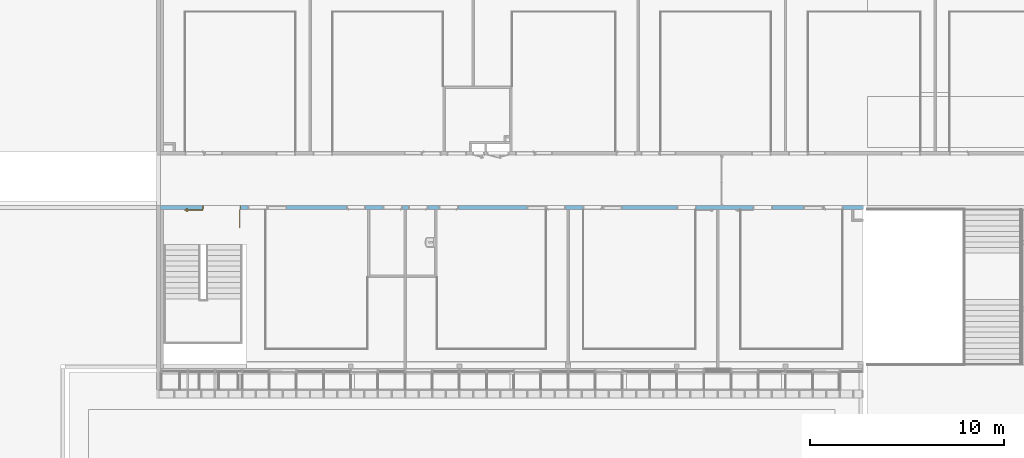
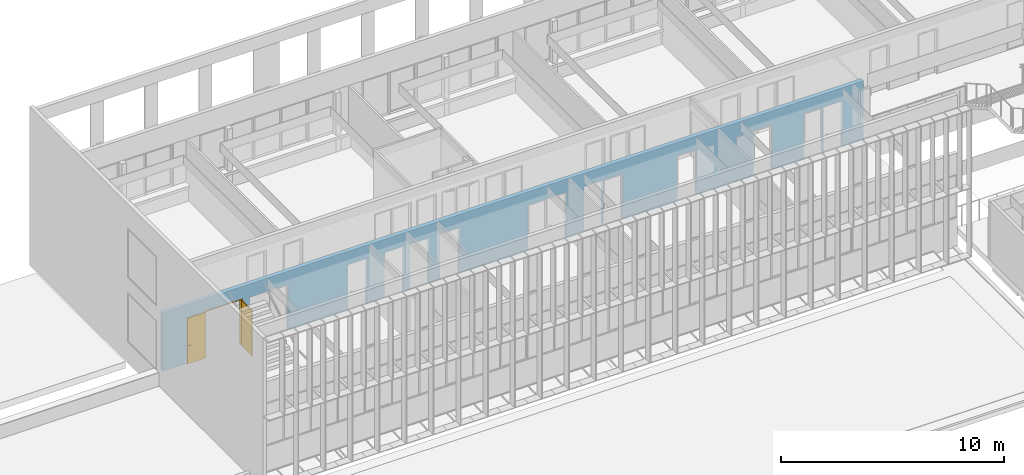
# One storey, part 95 of 106: 1 door, 15 openings, plus 1 element that does not belong to this part.
"""IFC2X3 building model written with IfcOpenShell, lengths in centimetres."""

from ifc_helpers import new_model, entity, si_unit, converted_unit, derived_unit, direction, frame, frame_2d, origin, place, context, subcontext, project, spatial, polyline, rectangle, extrude, clip, bounded_halfspace, faceted_brep, source, transform, mapped, material, material_list, layer, layer_set, layer_usage, type_object, type_shapes, element, fill, save


model = new_model("IFC2X3")

# Units and contexts
model_context = context("Model", 3, precision=0.001, world=origin(), true_north=direction((6.12303176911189e-17, 1.0)))
body_context = subcontext(model_context, "Body", "Model", "MODEL_VIEW")
ifc_project = project(units=[si_unit("LENGTHUNIT", "METRE", prefix="CENTI"), si_unit("AREAUNIT", "SQUARE_METRE"), si_unit("VOLUMEUNIT", "CUBIC_METRE"), converted_unit("PLANEANGLEUNIT", "DEGREE", entity("IfcRatioMeasure", 0.0174532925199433), si_unit("PLANEANGLEUNIT", "RADIAN"), dimensions=[0, 0, 0, 0, 0, 0, 0]), si_unit("MASSUNIT", "GRAM", prefix="KILO"), derived_unit("MASSDENSITYUNIT", [(si_unit("MASSUNIT", "GRAM", prefix="KILO"), 1), (si_unit("LENGTHUNIT", "METRE"), -3)]), si_unit("TIMEUNIT", "SECOND"), si_unit("FREQUENCYUNIT", "HERTZ"), si_unit("THERMODYNAMICTEMPERATUREUNIT", "DEGREE_CELSIUS"), derived_unit("THERMALTRANSMITTANCEUNIT", [(si_unit("MASSUNIT", "GRAM", prefix="KILO"), 1), (si_unit("THERMODYNAMICTEMPERATUREUNIT", "KELVIN"), -1), (si_unit("TIMEUNIT", "SECOND"), -3)]), derived_unit("VOLUMETRICFLOWRATEUNIT", [(si_unit("LENGTHUNIT", "METRE"), 3), (si_unit("TIMEUNIT", "SECOND"), -1)]), si_unit("ELECTRICCURRENTUNIT", "AMPERE"), si_unit("ELECTRICVOLTAGEUNIT", "VOLT"), si_unit("POWERUNIT", "WATT"), si_unit("FORCEUNIT", "NEWTON", prefix="KILO"), si_unit("ILLUMINANCEUNIT", "LUX"), si_unit("LUMINOUSFLUXUNIT", "LUMEN"), si_unit("LUMINOUSINTENSITYUNIT", "CANDELA"), derived_unit("USERDEFINED", [(si_unit("MASSUNIT", "GRAM", prefix="KILO"), -1), (si_unit("LENGTHUNIT", "METRE"), -2), (si_unit("TIMEUNIT", "SECOND"), 3), (si_unit("LUMINOUSFLUXUNIT", "LUMEN"), 1)]), derived_unit("LINEARVELOCITYUNIT", [(si_unit("LENGTHUNIT", "METRE"), 1), (si_unit("TIMEUNIT", "SECOND"), -1)]), si_unit("PRESSUREUNIT", "PASCAL"), derived_unit("USERDEFINED", [(si_unit("LENGTHUNIT", "METRE"), -2), (si_unit("MASSUNIT", "GRAM", prefix="KILO"), 1), (si_unit("TIMEUNIT", "SECOND"), -2)])], contexts=[model_context])

# Site, building, storey
site_placement = place(None, frame((-2781.94577612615, 7442.24238424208, 0.0)))
site = spatial("IfcSite", under=ifc_project, at=site_placement, Name="Default", CompositionType="ELEMENT")
building_placement = place(site_placement, origin())
building = spatial("IfcBuilding", under=site, at=building_placement, CompositionType="ELEMENT")
storey_placement = place(building_placement, frame((0.0, 0.0, 422.0)))
storey = spatial("IfcBuildingStorey", under=building, at=storey_placement, Name="Toiture - Cuisine", CompositionType="ELEMENT", Elevation=421.999999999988)

# Wall, openings, door
ifc_material_1 = material(Name="01 - Maçonnerie")
ifc_layer = layer(ifc_material_1, 20.0)
ifc_layer_set = layer_set([ifc_layer], Name="Mur de base:04 - Structure - béton - 20cm")
ifc_layer_usage = layer_usage(ifc_layer_set, "AXIS2", "NEGATIVE", 10.0)
wall_type = type_object("IfcWallType", Name="Mur de base:04 - Structure - béton - 20cm", PredefinedType="STANDARD", material=ifc_layer_set)
wall_placement = place(building_placement, frame((-4787.99987760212, -1100.0, 422.0), z_axis=(0.0, 0.0, 1.0), x_axis=(-1.0, 0.0, 0.0)))
wall = element("IfcWallStandardCase", 1, at=wall_placement, inside=storey, type_object=wall_type, material=ifc_layer_usage, Name="Mur de base:04 - Structure - béton - 20cm", ObjectType="Mur de base:04 - Structure - béton - 20cm", context=body_context, shape_type="Clipping", body=[
    clip(extrude(rectangle(XDim=3621.50000006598, YDim=20.0000000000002, at=frame_2d((1810.75000003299, 5.32907051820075e-14), x_axis=(-1.0, 0.0))), origin(), (0.0, 0.0, 1.0), 321.0), bounded_halfspace(frame((4.0, -10.0, 321.0), z_axis=(0.0, 0.0, -1.0), x_axis=(0.0, -1.0, 0.0)), True, frame((4.0, -10.0, 321.0)), polyline([(0.0, 0.0), (720.0, 0.0), (730.0, 0.0), (3617.50000006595, 0.0), (3617.50000006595, 20.0), (3602.20000006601, 20.0), (3077.50016406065, 20.0), (3075.50016406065, 20.0), (2550.5, 20.0), (2540.5, 20.0), (2362.50000003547, 20.0), (2352.50000003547, 20.0), (2203.5, 20.0), (2193.5, 20.0), (1632.5, 20.0), (1630.5, 20.0), (1522.50016406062, 20.0), (1512.50016406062, 20.0), (1440.5, 20.0), (1438.5, 20.0), (862.500000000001, 20.0), (860.5, 20.0), (750.500000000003, 20.0), (740.500000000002, 20.0), (630.500000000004, 20.0), (628.500000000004, 20.0), (104.500000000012, 20.0), (102.500000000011, 20.0), (56.0, 20.0), (46.0, 20.0), (0.0, 20.0), (0.0, 0.0)]))),
])
opening_1_placement = place(wall_placement, frame((3071.50016406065, -10.0, 0.0)))
element("IfcOpeningElement", 2, at=opening_1_placement, cuts=wall, Name="Int. Simple:PV (0.93m x 2.50m):1", ObjectType="Opening", context=body_context, shape_type="SweptSolid", body=[
    extrude(rectangle(XDim=248.500000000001, YDim=99.9999999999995, at=frame_2d((124.250000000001, 49.9999999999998), x_axis=(1.0, 0.0))), frame((0.0, 0.0, 0.0), z_axis=(0.0, 1.0, 0.0), x_axis=(0.0, 0.0, 1.0)), (0.0, 0.0, 1.0), 20.0),
])
opening_2_placement = place(wall_placement, frame((1534.5, -10.0, 0.0)))
element("IfcOpeningElement", 3, at=opening_2_placement, cuts=wall, Name="Int. Simple:PV (0.93m x 2.50m):1", ObjectType="Opening", context=body_context, shape_type="SweptSolid", body=[
    extrude(rectangle(XDim=248.500000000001, YDim=99.9999999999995, at=frame_2d((124.250000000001, 50.0), x_axis=(1.0, 0.0))), frame((0.0, 0.0, 0.0), z_axis=(0.0, 1.0, 0.0), x_axis=(0.0, 0.0, 1.0)), (0.0, 0.0, 1.0), 20.0),
])
opening_3_placement = place(wall_placement, frame((861.500000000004, -10.0, 0.0)))
element("IfcOpeningElement", 4, at=opening_3_placement, cuts=wall, Name="Int. Simple:PV (0.93m x 2.50m):1", ObjectType="Opening", context=body_context, shape_type="SweptSolid", body=[
    extrude(rectangle(XDim=248.500000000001, YDim=99.9999999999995, at=frame_2d((124.250000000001, 50.0), x_axis=(1.0, 0.0))), frame((0.0, 0.0, 0.0), z_axis=(0.0, 1.0, 0.0), x_axis=(0.0, 0.0, 1.0)), (0.0, 0.0, 1.0), 20.0),
])
opening_4_placement = place(wall_placement, frame((469.500000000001, -10.0, 0.0)))
element("IfcOpeningElement", 5, at=opening_4_placement, cuts=wall, Name="Int. Simple:PV (0.93m x 2.50m):1", ObjectType="Opening", context=body_context, shape_type="SweptSolid", body=[
    extrude(rectangle(XDim=248.500000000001, YDim=99.9999999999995, at=frame_2d((124.250000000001, 49.9999999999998), x_axis=(1.0, 0.0))), frame((0.0, 0.0, 0.0), z_axis=(0.0, 1.0, 0.0), x_axis=(0.0, 0.0, 1.0)), (0.0, 0.0, 1.0), 20.0),
])
opening_5_placement = place(wall_placement, frame((2971.50016406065, -10.0, 0.0)))
element("IfcOpeningElement", 6, at=opening_5_placement, cuts=wall, Name="châssis intérieur vitré:châssis intérieur vitré (h=270) R+1:1", ObjectType="Opening", context=body_context, shape_type="SweptSolid", body=[
    extrude(rectangle(XDim=250.0, YDim=99.9999999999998, at=frame_2d((125.0, 49.9999999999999), x_axis=(1.0, 0.0))), frame((0.0, 0.0, 0.0), z_axis=(0.0, 1.0, 0.0), x_axis=(0.0, 0.0, 1.0)), (0.0, 0.0, 1.0), 20.0),
])
opening_6_placement = place(wall_placement, frame((1634.50000000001, -10.0, 0.0)))
element("IfcOpeningElement", 7, at=opening_6_placement, cuts=wall, Name="châssis intérieur vitré:châssis intérieur vitré (h=270) R+1:1", ObjectType="Opening", context=body_context, shape_type="SweptSolid", body=[
    extrude(rectangle(XDim=250.0, YDim=99.9999999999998, at=frame_2d((125.0, 49.9999999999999), x_axis=(1.0, 0.0))), frame((0.0, 0.0, 0.0), z_axis=(0.0, 1.0, 0.0), x_axis=(0.0, 0.0, 1.0)), (0.0, 0.0, 1.0), 20.0),
])
opening_7_placement = place(wall_placement, frame((1243.0, -10.0, 0.0)))
element("IfcOpeningElement", 8, at=opening_7_placement, cuts=wall, Name="châssis intérieur vitré:châssis intérieur vitré (h=270) R+1:1", ObjectType="Opening", context=body_context, shape_type="SweptSolid", body=[
    extrude(rectangle(XDim=250.0, YDim=99.9999999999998, at=frame_2d((125.0, 49.9999999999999), x_axis=(1.0, 0.0))), frame((0.0, 0.0, 0.0), z_axis=(0.0, 1.0, 0.0), x_axis=(0.0, 0.0, 1.0)), (0.0, 0.0, 1.0), 20.0),
])
opening_8_placement = place(wall_placement, frame((208.0, -10.0, 0.0)))
element("IfcOpeningElement", 9, at=opening_8_placement, cuts=wall, Name="châssis intérieur vitré:châssis intérieur vitré (h=270) R+1:1", ObjectType="Opening", context=body_context, shape_type="SweptSolid", body=[
    extrude(rectangle(XDim=250.0, YDim=99.9999999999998, at=frame_2d((125.0, 49.9999999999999), x_axis=(1.0, 0.0))), frame((0.0, 0.0, 0.0), z_axis=(0.0, 1.0, 0.0), x_axis=(0.0, 0.0, 1.0)), (0.0, 0.0, 1.0), 20.0),
])
opening_9_placement = place(wall_placement, frame((2564.5, -10.0, 0.0)))
element("IfcOpeningElement", 10, at=opening_9_placement, cuts=wall, Name="Int. Simple:PV (0.93m x 2.50m):1", ObjectType="Opening", context=body_context, shape_type="SweptSolid", body=[
    extrude(rectangle(XDim=248.500000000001, YDim=99.9999999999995, at=frame_2d((124.250000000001, 50.0), x_axis=(1.0, 0.0))), frame((0.0, 0.0, 0.0), z_axis=(0.0, 1.0, 0.0), x_axis=(0.0, 0.0, 1.0)), (0.0, 0.0, 1.0), 20.0),
])
opening_10_placement = place(wall_placement, frame((2374.5, -10.0, 0.0)))
element("IfcOpeningElement", 11, at=opening_10_placement, cuts=wall, Name="Int. Simple:PP simple (0.93m x 2.50m):1", ObjectType="Opening", context=body_context, shape_type="SweptSolid", body=[
    extrude(rectangle(XDim=248.500000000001, YDim=99.9999999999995, at=frame_2d((124.250000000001, 49.9999999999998), x_axis=(1.0, 0.0))), frame((0.0, 0.0, 0.0), z_axis=(0.0, 1.0, 0.0), x_axis=(0.0, 0.0, 1.0)), (0.0, 0.0, 1.0), 20.0),
])
opening_11_placement = place(wall_placement, frame((2244.5, -10.0, 0.0)))
element("IfcOpeningElement", 12, at=opening_11_placement, cuts=wall, Name="Int. Simple:PP simple (0.93m x 2.50m):1", ObjectType="Opening", context=body_context, shape_type="SweptSolid", body=[
    extrude(rectangle(XDim=248.500000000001, YDim=99.9999999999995, at=frame_2d((124.250000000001, 49.9999999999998), x_axis=(1.0, 0.0))), frame((0.0, 0.0, 0.0), z_axis=(0.0, 1.0, 0.0), x_axis=(0.0, 0.0, 1.0)), (0.0, 0.0, 1.0), 20.0),
])
opening_12_placement = place(wall_placement, frame((2087.5, -10.0, 0.0)))
element("IfcOpeningElement", 13, at=opening_12_placement, cuts=wall, Name="Int. Simple:PV (0.93m x 2.50m):1", ObjectType="Opening", context=body_context, shape_type="SweptSolid", body=[
    extrude(rectangle(XDim=248.500000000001, YDim=99.9999999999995, at=frame_2d((124.250000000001, 49.9999999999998), x_axis=(1.0, 0.0))), frame((0.0, 0.0, 0.0), z_axis=(0.0, 1.0, 0.0), x_axis=(0.0, 0.0, 1.0)), (0.0, 0.0, 1.0), 20.0),
])
opening_13_placement = place(wall_placement, frame((1344.5, -10.0, 0.0)))
element("IfcOpeningElement", 14, at=opening_13_placement, cuts=wall, Name="Int. Simple:PV (0.93m x 2.50m):1", ObjectType="Opening", context=body_context, shape_type="SweptSolid", body=[
    extrude(rectangle(XDim=248.500000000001, YDim=99.9999999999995, at=frame_2d((124.250000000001, 49.9999999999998), x_axis=(1.0, 0.0))), frame((0.0, 0.0, 0.0), z_axis=(0.0, 1.0, 0.0), x_axis=(0.0, 0.0, 1.0)), (0.0, 0.0, 1.0), 20.0),
])
opening_14_placement = place(wall_placement, frame((106.500000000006, -10.0, 0.0)))
element("IfcOpeningElement", 15, at=opening_14_placement, cuts=wall, Name="Int. Simple:PV (0.93m x 2.50m):1", ObjectType="Opening", context=body_context, shape_type="SweptSolid", body=[
    extrude(rectangle(XDim=248.500000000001, YDim=99.9999999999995, at=frame_2d((124.250000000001, 50.0), x_axis=(1.0, 0.0))), frame((0.0, 0.0, 0.0), z_axis=(0.0, 1.0, 0.0), x_axis=(0.0, 0.0, 1.0)), (0.0, 0.0, 1.0), 20.0),
])
opening_15_placement = place(wall_placement, frame((3208.50000000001, -10.0, 0.0)))
opening_15 = element("IfcOpeningElement", 16, at=opening_15_placement, cuts=wall, Name="Int. Double:PP (1.90m x 2.50m):1", ObjectType="Opening", context=body_context, shape_type="SweptSolid", body=[
    extrude(rectangle(XDim=253.500000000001, YDim=197.0, at=frame_2d((126.750000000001, 98.5), x_axis=(1.0, 0.0))), frame((0.0, 0.0, 0.0), z_axis=(0.0, 1.0, 0.0), x_axis=(0.0, 0.0, 1.0)), (0.0, 0.0, 1.0), 20.0),
])
ifc_material_2 = material(Name="Bois - Panneau de porte")
ifc_material_3 = material(Name="Finition Peinture - Blanc satiné")
ifc_material_4 = material(Name="Bois - Cadre de porte")
ifc_material_list_1 = material_list([ifc_material_2, ifc_material_3, ifc_material_4])
ifc_material_list_2 = material_list([ifc_material_2, ifc_material_3, ifc_material_4])
door_style = type_object("IfcDoorStyle", Name="PP (1.90m x 2.50m)", ConstructionType="NOTDEFINED", OperationType="DOUBLE_DOOR_SINGLE_SWING", ParameterTakesPrecedence=False, Sizeable=False, material=ifc_material_list_2)
shared_shape = source(origin(), body_context, "Body", "Brep", [
    faceted_brep([(196.500000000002, -95.0, 250.0), (196.500000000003, 0.0, 250.0), (196.500000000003, 0.0, 0.0), (196.500000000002, -95.0, 0.0), (200.500000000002, -95.0, 250.0), (200.500000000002, -95.0, 0.0), (200.500000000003, 0.0, 0.0), (200.500000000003, 0.0, 250.0)], [[[0, 1, 2, 3]], [[4, 5, 6, 7]], [[1, 0, 4, 7]], [[2, 1, 7, 6]], [[3, 2, 6, 5]], [[0, 3, 5, 4]]]),
    faceted_brep([(-80.4999999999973, 0.499999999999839, 87.0), (-80.4999999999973, 0.499999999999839, 108.0), (-79.5352761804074, 0.499999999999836, 108.399601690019), (-78.4999999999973, 0.499999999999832, 108.535898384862), (-77.4647238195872, 0.499999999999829, 108.399601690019), (-76.4999999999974, 0.499999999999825, 108.0), (-76.4999999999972, 0.499999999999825, 87.0), (-77.4647238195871, 0.499999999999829, 86.6003983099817), (-78.4999999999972, 0.499999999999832, 86.464101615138), (-79.5352761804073, 0.499999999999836, 86.6003983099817), (-80.4999999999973, 0.0, 108.0), (-80.4999999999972, 0.0, 87.0), (-79.5352761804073, 0.0, 86.6003983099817), (-78.4999999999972, 0.0, 86.464101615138), (-77.4647238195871, 0.0, 86.6003983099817), (-76.4999999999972, 0.0, 87.0), (-76.4999999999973, 0.0, 108.0), (-77.4647238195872, 0.0, 108.399601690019), (-78.4999999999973, 0.0, 108.535898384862), (-79.5352761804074, 0.0, 108.399601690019)], [[[0, 1, 2, 3, 4, 5, 6, 7, 8, 9]], [[10, 11, 12, 13, 14, 15, 16, 17, 18, 19]], [[9, 12, 11, 0]], [[8, 13, 12, 9]], [[7, 14, 13, 8]], [[7, 6, 15, 14]], [[15, 6, 5, 16]], [[4, 17, 16, 5]], [[3, 18, 17, 4]], [[2, 19, 18, 3]], [[2, 1, 10, 19]], [[11, 10, 1, 0]]]),
    faceted_brep([(-80.4999999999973, -4.0, 87.0), (-80.4999999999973, -4.0, 108.0), (-79.5352761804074, -4.0, 108.399601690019), (-78.4999999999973, -4.0, 108.535898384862), (-77.4647238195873, -4.0, 108.399601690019), (-76.4999999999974, -4.0, 108.0), (-76.4999999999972, -4.0, 87.0), (-77.4647238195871, -4.0, 86.6003983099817), (-78.4999999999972, -4.0, 86.464101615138), (-79.5352761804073, -4.0, 86.6003983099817), (-78.4999999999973, -4.50000000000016, 108.535898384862), (-79.5352761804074, -4.50000000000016, 108.399601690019), (-80.4999999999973, -4.50000000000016, 108.0), (-80.4999999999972, -4.50000000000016, 87.0), (-79.5352761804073, -4.50000000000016, 86.6003983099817), (-78.4999999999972, -4.50000000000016, 86.464101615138), (-77.4647238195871, -4.50000000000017, 86.6003983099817), (-76.4999999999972, -4.50000000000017, 87.0), (-76.4999999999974, -4.50000000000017, 108.0), (-77.4647238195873, -4.50000000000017, 108.399601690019)], [[[0, 1, 2, 3, 4, 5, 6, 7, 8, 9]], [[10, 11, 12, 13, 14, 15, 16, 17, 18, 19]], [[4, 19, 18, 5]], [[3, 10, 19, 4]], [[2, 11, 10, 3]], [[2, 1, 12, 11]], [[13, 12, 1, 0]], [[9, 14, 13, 0]], [[8, 15, 14, 9]], [[7, 16, 15, 8]], [[7, 6, 17, 16]], [[17, 6, 5, 18]]]),
    faceted_brep([(-78.2974701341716, 0.499999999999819, 100.778044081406), (-78.7025298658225, 0.49999999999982, 100.778044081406), (-79.0999999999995, 0.499999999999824, 100.699999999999), (-79.1000000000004, 0.499999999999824, 99.2999999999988), (-78.7025298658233, 0.49999999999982, 99.221955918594), (-78.2974701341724, 0.499999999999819, 99.2219559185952), (-77.8999999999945, 0.499999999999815, 99.3000000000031), (-77.8999999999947, 0.499999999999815, 100.7), (-78.7025298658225, 3.10045754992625, 100.778044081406), (-79.0999999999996, 3.26509507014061, 100.7), (-78.2974701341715, 2.93267631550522, 100.778044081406), (-76.9298602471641, 4.30028620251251, 100.778044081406), (-77.0976414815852, 4.70534593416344, 100.778044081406), (-77.8999999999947, 2.76803879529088, 100.7), (-77.8999999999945, 2.76803879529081, 99.3000000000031), (-78.2974701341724, 2.93267631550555, 99.2219559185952), (-78.7025298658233, 3.10045754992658, 99.221955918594), (-77.0976414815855, 4.70534593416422, 99.221955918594), (-76.9298602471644, 4.3002862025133, 99.2219559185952), (-79.1000000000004, 3.26509507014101, 99.2999999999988), (-77.2622790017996, 5.10281606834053, 100.7), (-76.7652227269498, 3.9028160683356, 100.7), (-76.7652227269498, 3.90281606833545, 99.3000000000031), (-77.2622790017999, 5.10281606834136, 99.2999999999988), (-68.4981359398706, 5.10281606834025, 100.7), (-68.4981359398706, 4.70534593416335, 100.778044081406), (-68.4981359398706, 4.30028620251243, 100.778044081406), (-68.4981359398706, 3.90281606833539, 100.699999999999), (-68.4981359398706, 3.90281606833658, 99.3000000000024), (-68.4981359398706, 4.30028620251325, 99.2219559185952), (-68.4981359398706, 4.70534593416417, 99.221955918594), (-68.4981359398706, 5.10281606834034, 99.2999999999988), (-72.7139980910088, 4.50281606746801, 100.78786867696), (-73.2692302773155, 5.10281606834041, 100.7), (-72.6316793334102, 3.90281606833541, 100.7), (-72.6316793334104, 3.90281606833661, 99.3000000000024), (-72.7139981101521, 4.50281607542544, 99.2121313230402), (-73.2692310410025, 5.10281606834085, 99.2999999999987)], [[[0, 1, 2, 3, 4, 5, 6, 7]], [[2, 1, 8, 9]], [[1, 0, 10, 11, 12, 8]], [[0, 7, 13, 10]], [[14, 13, 7, 6]], [[5, 15, 14, 6]], [[5, 4, 16, 17, 18, 15]], [[3, 19, 16, 4]], [[9, 19, 3, 2]], [[9, 8, 12, 20]], [[10, 13, 21, 11]], [[22, 21, 13, 14]], [[14, 15, 18, 22]], [[16, 19, 23, 17]], [[20, 23, 19, 9]], [[24, 25, 26, 27, 28, 29, 30, 31]], [[32, 25, 33]], [[33, 25, 24]], [[33, 20, 12]], [[11, 34, 32]], [[34, 11, 21]], [[27, 26, 34]], [[32, 26, 25]], [[32, 34, 26]], [[32, 33, 12]], [[11, 32, 12]], [[21, 22, 35, 28, 27, 34]], [[36, 29, 35]], [[30, 36, 37]], [[18, 35, 22]], [[29, 28, 35]], [[30, 37, 31]], [[37, 17, 23]], [[36, 17, 37]], [[36, 18, 17]], [[36, 35, 18]], [[29, 36, 30]], [[23, 20, 33, 24, 31, 37]]]),
    faceted_brep([(-78.2974701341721, -4.50000000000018, 99.2219559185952), (-78.702529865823, -4.50000000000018, 99.221955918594), (-79.0999999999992, -4.50000000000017, 99.2999999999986), (-79.0999999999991, -4.50000000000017, 100.7), (-78.7025298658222, -4.50000000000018, 100.778044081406), (-78.2974701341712, -4.50000000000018, 100.778044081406), (-77.8999999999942, -4.50000000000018, 100.7), (-77.8999999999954, -4.50000000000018, 99.3000000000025), (-77.8999999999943, -6.74852045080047, 100.7), (-77.8999999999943, -6.74852045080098, 99.3000000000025), (-78.2974701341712, -6.91315797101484, 100.778044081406), (-78.7025298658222, -7.08093920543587, 100.778044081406), (-77.0838906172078, -8.69957845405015, 100.778044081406), (-76.9161093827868, -8.29451872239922, 100.778044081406), (-79.0999999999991, -7.2455767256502, 100.7), (-79.0999999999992, -7.24557672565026, 99.2999999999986), (-78.7025298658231, -7.08093920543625, 99.221955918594), (-78.2974701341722, -6.91315797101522, 99.2219559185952), (-76.9161093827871, -8.29451872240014, 99.2219559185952), (-77.0838906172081, -8.69957845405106, 99.221955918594), (-76.7514718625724, -7.89704858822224, 100.7), (-76.7514718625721, -7.8970485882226, 99.3000000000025), (-77.2485281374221, -9.09704858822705, 100.7), (-77.2485281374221, -9.09704858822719, 99.2999999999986), (-68.4954216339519, -8.29451872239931, 100.778044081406), (-68.4954216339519, -8.69957845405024, 100.778044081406), (-68.4954216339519, -9.09704858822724, 100.7), (-68.4954216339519, -9.09704858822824, 99.2999999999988), (-68.4954216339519, -8.69957845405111, 99.221955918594), (-68.4954216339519, -8.29451872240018, 99.2219559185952), (-68.4954216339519, -7.89704858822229, 99.3000000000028), (-68.4954216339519, -7.89704858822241, 100.7), (-72.6234467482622, -7.89704858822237, 100.7), (-72.623447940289, -7.89704858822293, 99.3000000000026), (-72.7057655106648, -8.49704858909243, 100.78786867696), (-73.2554794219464, -9.09704858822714, 100.7), (-73.2554795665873, -9.09704858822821, 99.2999999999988), (-72.7057654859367, -8.49704858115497, 99.2121313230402)], [[[0, 1, 2, 3, 4, 5, 6, 7]], [[8, 9, 7, 6]], [[5, 10, 8, 6]], [[5, 4, 11, 12, 13, 10]], [[3, 14, 11, 4]], [[14, 3, 2, 15]], [[2, 1, 16, 15]], [[1, 0, 17, 18, 19, 16]], [[0, 7, 9, 17]], [[20, 21, 9, 8]], [[8, 10, 13, 20]], [[14, 22, 12, 11]], [[23, 22, 14, 15]], [[15, 16, 19, 23]], [[17, 9, 21, 18]], [[24, 25, 26, 27, 28, 29, 30, 31]], [[21, 20, 32, 31, 30, 33]], [[34, 24, 32]], [[25, 34, 35]], [[13, 32, 20]], [[24, 31, 32]], [[25, 35, 26]], [[35, 12, 22]], [[34, 12, 35]], [[34, 13, 12]], [[34, 32, 13]], [[24, 34, 25]], [[22, 23, 36, 27, 26, 35]], [[37, 28, 36]], [[36, 28, 27]], [[36, 23, 19]], [[18, 33, 37]], [[33, 18, 21]], [[30, 29, 33]], [[37, 29, 28]], [[37, 33, 29]], [[37, 36, 19]], [[18, 37, 19]]]),
    faceted_brep([(-84.4999999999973, -4.0, 250.0), (-84.4999999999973, -4.0, 0.0), (10.5000000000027, -4.0, 0.0), (10.5000000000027, -4.0, 250.0), (-84.4999999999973, 0.0, 250.0), (10.5000000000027, 0.0, 250.0), (10.5000000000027, 0.0, 0.0), (-84.4999999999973, 0.0, 0.0)], [[[0, 1, 2, 3]], [[4, 5, 6, 7]], [[3, 5, 4, 0]], [[2, 6, 5, 3]], [[1, 7, 6, 2]], [[0, 4, 7, 1]]]),
    faceted_brep([(204.0, 0.0, 0.0), (200.500000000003, 0.0, 0.0), (200.500000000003, 4.0, 0.0), (199.0, 4.0, 0.0), (199.0, 20.0, 0.0), (204.0, 20.0, 0.0), (204.0, 20.0, 253.500000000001), (204.0, 0.0, 253.500000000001), (199.0, 20.0, 248.5), (12.0, 20.0, 248.5), (12.0, 20.0, 0.0), (7.0, 20.0, 0.0), (7.0, 20.0, 253.500000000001), (199.0, 4.0, 248.5), (200.500000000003, 4.0, 250.0), (10.5000000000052, 4.0, 250.0), (10.5000000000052, 4.0, 0.0), (12.0, 4.0, 0.0), (12.0, 4.0, 248.5), (200.500000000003, 0.0, 250.0), (7.0, 0.0, 253.500000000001), (7.0, 0.0, 0.0), (10.5000000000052, 0.0, 0.0), (10.5000000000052, 0.0, 250.0)], [[[0, 1, 2, 3, 4, 5]], [[5, 6, 7, 0]], [[4, 8, 9, 10, 11, 12, 6, 5]], [[3, 13, 8, 4]], [[2, 14, 15, 16, 17, 18, 13, 3]], [[1, 19, 14, 2]], [[0, 7, 20, 21, 22, 23, 19, 1]], [[12, 11, 21, 20]], [[21, 11, 10, 17, 16, 22]], [[18, 17, 10, 9]], [[23, 22, 16, 15]], [[6, 12, 20, 7]], [[13, 18, 9, 8]], [[19, 23, 15, 14]]]),
    faceted_brep([(202.500000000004, 20.0, 0.0), (202.500000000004, 20.5000000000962, 0.0), (205.500000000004, 20.5000000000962, 0.0), (205.500000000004, 20.0, 0.0), (205.500000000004, 20.0, 255.0), (5.50000000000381, 20.0, 255.0), (5.50000000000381, 20.0, 0.0), (8.50000000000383, 20.0, 0.0), (8.50000000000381, 20.0, 252.0), (202.500000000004, 20.0, 252.0), (205.500000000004, 20.5000000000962, 255.0), (202.500000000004, 20.5000000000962, 252.0), (8.50000000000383, 20.5000000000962, 252.0), (8.50000000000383, 20.5000000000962, 0.0), (5.50000000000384, 20.5000000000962, 0.0), (5.50000000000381, 20.5000000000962, 255.0)], [[[0, 1, 2, 3]], [[3, 4, 5, 6, 7, 8, 9, 0]], [[2, 10, 4, 3]], [[1, 11, 12, 13, 14, 15, 10, 2]], [[0, 9, 11, 1]], [[8, 7, 13, 12]], [[7, 6, 14, 13]], [[15, 14, 6, 5]], [[10, 15, 5, 4]], [[9, 8, 12, 11]]]),
    faceted_brep([(205.500000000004, -0.500000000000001, 0.0), (205.500000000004, -0.500000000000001, 255.0), (5.50000000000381, -0.500000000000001, 255.0), (5.50000000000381, -0.500000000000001, 0.0), (8.50000000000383, -0.500000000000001, 0.0), (8.50000000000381, -0.500000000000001, 252.0), (202.500000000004, -0.500000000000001, 252.0), (202.500000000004, -0.500000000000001, 0.0), (205.500000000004, 0.0, 0.0), (205.500000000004, 0.0, 255.0), (202.500000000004, 0.0, 0.0), (202.500000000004, 0.0, 252.0), (8.50000000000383, 0.0, 252.0), (8.50000000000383, 0.0, 0.0), (5.50000000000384, 0.0, 0.0), (5.50000000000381, 0.0, 255.0)], [[[0, 1, 2, 3, 4, 5, 6, 7]], [[8, 9, 1, 0]], [[10, 11, 12, 13, 14, 15, 9, 8]], [[7, 6, 11, 10]], [[5, 4, 13, 12]], [[15, 14, 3, 2]], [[9, 15, 2, 1]], [[6, 5, 12, 11]], [[4, 3, 14, 13]], [[7, 10, 8, 0]]]),
])
type_shapes(door_style, [shared_shape])
door_placement = place(opening_15_placement, frame((204.0, 20.0, 0.0), z_axis=(0.0, 0.0, 1.0), x_axis=(-1.0, 0.0, 0.0)))
door = element("IfcDoor", 17, at=door_placement, inside=storey, type_object=door_style, material=ifc_material_list_1, Name="Int. Double:PP (1.90m x 2.50m)", ObjectType="Int. Double:PP (1.90m x 2.50m)", OverallHeight=253.500000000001, OverallWidth=197.0, context=body_context, shape_type="MappedRepresentation", body=[
    mapped(shared_shape, transform((0.0, 0.0, 0.0), scale=1.0)),
])
fill(opening_15, door)

save(model, "model.ifc")
